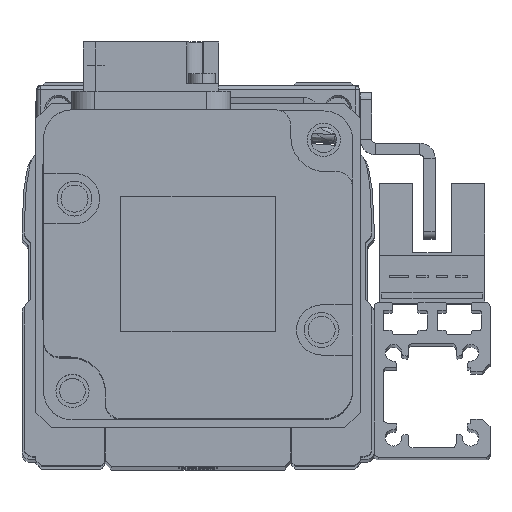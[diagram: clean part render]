
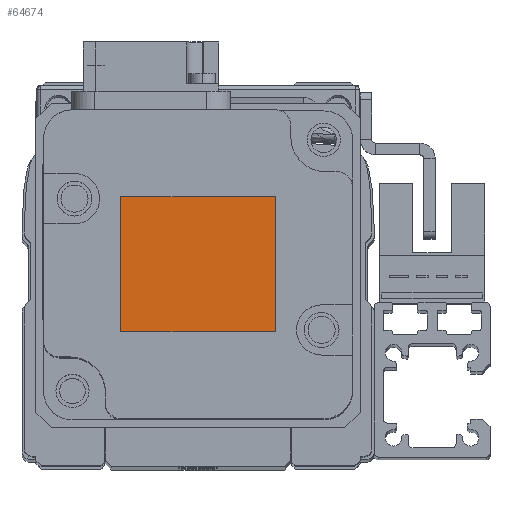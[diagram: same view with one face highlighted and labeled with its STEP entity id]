
A CAD part, top view. The second image highlights one B-rep face of the part: STEP entity #64674.
In plain terms, the highlighted planar face has unit normal (0, 0, 1) as drawn and (0, 0, -1) by its records, which use the part's own axes.
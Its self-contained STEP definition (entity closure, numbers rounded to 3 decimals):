
#17425 = AXIS2_PLACEMENT_3D ( 'NONE', #40003, #40004, #40018 ) ;
#20569 = EDGE_CURVE ( 'NONE', #48459, #48497, #60822, .T. ) ;
#20596 = EDGE_CURVE ( 'NONE', #48497, #48417, #60816, .T. ) ;
#20602 = EDGE_CURVE ( 'NONE', #48498, #48459, #58994, .T. ) ;
#20627 = EDGE_CURVE ( 'NONE', #48417, #48498, #58920, .T. ) ;
#31352 = FACE_OUTER_BOUND ( 'NONE', #41447, .T. ) ;
#35629 = CARTESIAN_POINT ( 'NONE',  ( 10., -8.75, -82.6 ) ) ;
#35659 = CARTESIAN_POINT ( 'NONE',  ( -10., 8.75, -82.6 ) ) ;
#35683 = CARTESIAN_POINT ( 'NONE',  ( 10., 8.75, -82.6 ) ) ;
#35745 = CARTESIAN_POINT ( 'NONE',  ( -10., -8.75, -82.6 ) ) ;
#38257 = ORIENTED_EDGE ( 'NONE', *, *, #20596, .T. ) ;
#38280 = ORIENTED_EDGE ( 'NONE', *, *, #20627, .T. ) ;
#38295 = ORIENTED_EDGE ( 'NONE', *, *, #20569, .T. ) ;
#38344 = ORIENTED_EDGE ( 'NONE', *, *, #20602, .T. ) ;
#40003 = CARTESIAN_POINT ( 'NONE',  ( 0., 0., -82.6 ) ) ;
#40004 = DIRECTION ( 'NONE',  ( 0., 0., 1. ) ) ;
#40011 = PLANE ( 'NONE',  #17425 ) ;
#40018 = DIRECTION ( 'NONE',  ( 1., 0., 0. ) ) ;
#41447 = EDGE_LOOP ( 'NONE', ( #38344, #38295, #38257, #38280 ) ) ;
#48417 = VERTEX_POINT ( 'NONE', #35629 ) ;
#48459 = VERTEX_POINT ( 'NONE', #35659 ) ;
#48497 = VERTEX_POINT ( 'NONE', #35683 ) ;
#48498 = VERTEX_POINT ( 'NONE', #35745 ) ;
#58920 = LINE ( 'NONE', #66511, #58934 ) ;
#58929 = VECTOR ( 'NONE', #66454, 1000. ) ;
#58934 = VECTOR ( 'NONE', #66518, 1000. ) ;
#58994 = LINE ( 'NONE', #66470, #58929 ) ;
#60775 = VECTOR ( 'NONE', #66476, 1000. ) ;
#60781 = VECTOR ( 'NONE', #64881, 1000. ) ;
#60816 = LINE ( 'NONE', #66479, #60775 ) ;
#60822 = LINE ( 'NONE', #64870, #60781 ) ;
#64674 = ADVANCED_FACE ( 'NONE', ( #31352 ), #40011, .F. ) ;
#64870 = CARTESIAN_POINT ( 'NONE',  ( 10., 8.75, -82.6 ) ) ;
#64881 = DIRECTION ( 'NONE',  ( 1., 0., 0. ) ) ;
#66454 = DIRECTION ( 'NONE',  ( 0., 1., 0. ) ) ;
#66470 = CARTESIAN_POINT ( 'NONE',  ( -10., 8.75, -82.6 ) ) ;
#66476 = DIRECTION ( 'NONE',  ( 0., -1., 0. ) ) ;
#66479 = CARTESIAN_POINT ( 'NONE',  ( 10., -8.75, -82.6 ) ) ;
#66511 = CARTESIAN_POINT ( 'NONE',  ( -10., -8.75, -82.6 ) ) ;
#66518 = DIRECTION ( 'NONE',  ( -1., 0., 0. ) ) ;
